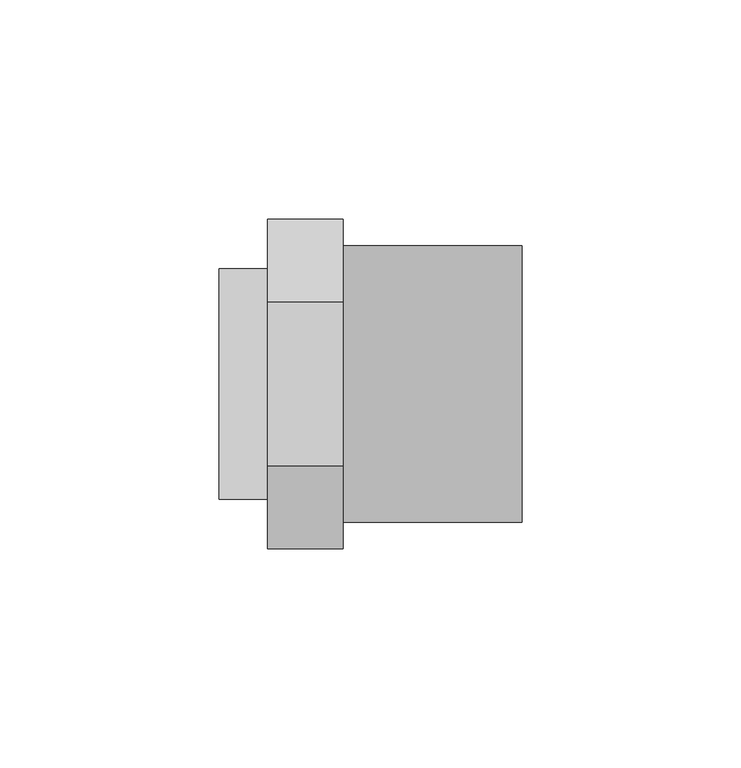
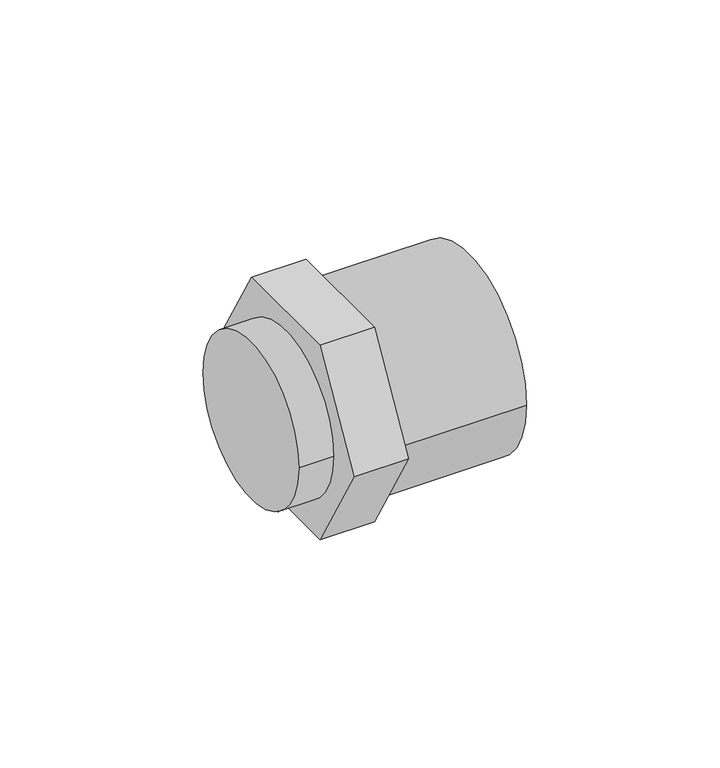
"""IFC4 building model written with IfcOpenShell, lengths in millimetres: pipe fitting geometry, 01101008_ : Manguitos multiplos H/M/H."""

from ifc_helpers import new_model, si_unit, point, frame, origin, origin_2d, place, context, project, spatial, polyline, circle_curve, trimmed, segment, composite_curve, outline, extrude, source, transform, mapped, element, save


def pipe_fitting_855cbb77(model_context):
    return source(origin(), model_context, "Body", "SweptSolid", [
        extrude(outline(composite_curve([segment(trimmed(circle_curve(origin_2d(), 26.25), [point((26.25, 0.0))], [point((-26.25, 0.0))], False, "CARTESIAN"), True, "CONTINUOUS"), segment(trimmed(circle_curve(origin_2d(), 26.25), [point((-26.25, 0.0))], [point((26.25, 0.0))], False, "CARTESIAN"), True, "CONTINUOUS")], self_intersect=False)), frame((0.0, 0.0, 0.0), z_axis=(1.0, 0.0, 0.0), x_axis=(0.0, 1.0, 0.0)), (0.0, 0.0, 1.0), 11.0),
        extrude(outline(polyline([(-18.7638837, 32.5), (18.7638837, 32.5), (37.5277675, 0.0), (18.7638837, -32.5), (-18.7638837, -32.5), (-37.5277675, 0.0), (-18.7638837, 32.5)])), frame((11.0, 0.0, 0.0), z_axis=(1.0, 0.0, 0.0), x_axis=(0.0, 1.0, 0.0)), (0.0, 0.0, 1.0), 17.25),
        extrude(outline(composite_curve([segment(trimmed(circle_curve(origin_2d(), 31.5), [point((-31.5, 0.0))], [point((31.5, 0.0))], False, "CARTESIAN"), True, "CONTINUOUS"), segment(trimmed(circle_curve(origin_2d(), 31.5), [point((31.5, 0.0))], [point((-31.5, 0.0))], False, "CARTESIAN"), True, "CONTINUOUS")], self_intersect=False)), frame((28.25, 0.0, 0.0), z_axis=(1.0, 0.0, 0.0), x_axis=(0.0, 1.0, 0.0)), (0.0, 0.0, 1.0), 40.75),
    ])


if __name__ == "__main__":
    model = new_model("IFC4")
    model_context = context("Model", 3, world=origin())
    ifc_project = project(units=[si_unit("LENGTHUNIT", "METRE", prefix="MILLI")], contexts=[model_context])
    site = spatial("IfcSite", under=ifc_project)
    building = spatial("IfcBuilding", under=site)
    placement = place(None, origin())
    pipe_fitting_shape = pipe_fitting_855cbb77(model_context)
    element("IfcPipeFitting", 1, ObjectType="01101008_ : Manguitos multiplos H/M/H", at=placement, inside=building, context=model_context, shape_type="MappedRepresentation", body=[
        mapped(pipe_fitting_shape, transform((0.0, 0.0, 0.0), x_axis=(1.0, 0.0, 0.0), y_axis=(0.0, 1.0, 0.0), z_axis=(0.0, 0.0, 1.0))),
    ])
    save(model, "model.ifc")
